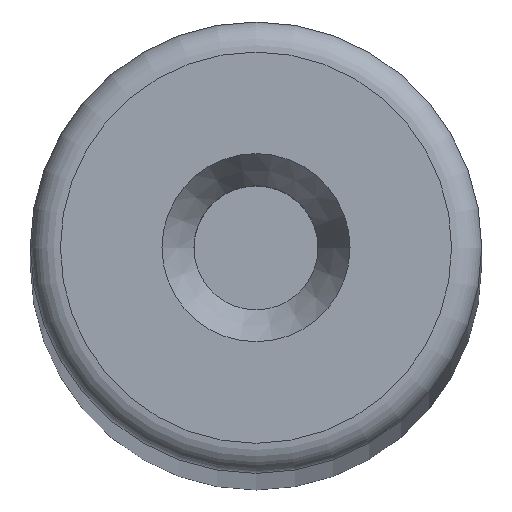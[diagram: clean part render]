
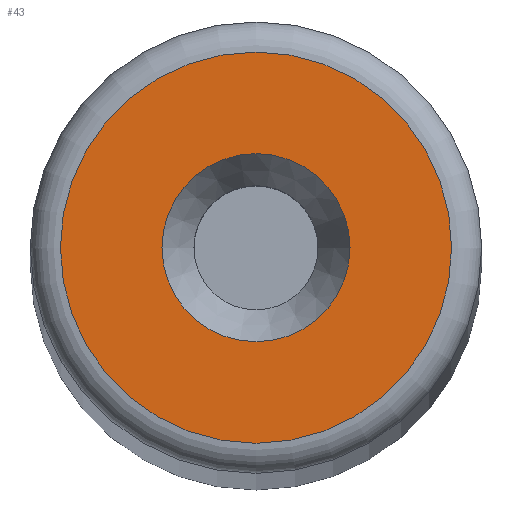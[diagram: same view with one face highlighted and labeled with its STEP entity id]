
A CAD part, top view. The second image highlights one B-rep face of the part: STEP entity #43.
In plain terms, the highlighted planar face has unit normal (0, 0, 1).
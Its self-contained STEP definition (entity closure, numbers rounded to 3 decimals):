
#43=ADVANCED_FACE('',(#58,#59),#54,.T.);
#54=PLANE('',#149);
#58=FACE_BOUND('',#76,.T.);
#59=FACE_BOUND('',#77,.T.);
#76=EDGE_LOOP('',(#96));
#77=EDGE_LOOP('',(#97));
#96=ORIENTED_EDGE('',*,*,#126,.T.);
#97=ORIENTED_EDGE('',*,*,#127,.F.);
#116=VERTEX_POINT('',#214);
#117=VERTEX_POINT('',#216);
#126=EDGE_CURVE('',#116,#116,#136,.T.);
#127=EDGE_CURVE('',#117,#117,#137,.T.);
#136=CIRCLE('',#147,5.2);
#137=CIRCLE('',#148,2.5);
#147=AXIS2_PLACEMENT_3D('',#213,#170,#171);
#148=AXIS2_PLACEMENT_3D('',#215,#172,#173);
#149=AXIS2_PLACEMENT_3D('',#217,#174,#175);
#170=DIRECTION('',(0.,0.,1.));
#171=DIRECTION('',(1.,0.,0.));
#172=DIRECTION('',(0.,0.,1.));
#173=DIRECTION('',(1.,0.,0.));
#174=DIRECTION('',(0.,0.,1.));
#175=DIRECTION('',(1.,0.,0.));
#213=CARTESIAN_POINT('',(0.,0.,254.));
#214=CARTESIAN_POINT('',(5.2,0.,254.));
#215=CARTESIAN_POINT('',(0.,0.,254.));
#216=CARTESIAN_POINT('',(2.5,0.,254.));
#217=CARTESIAN_POINT('',(0.,0.,254.));
